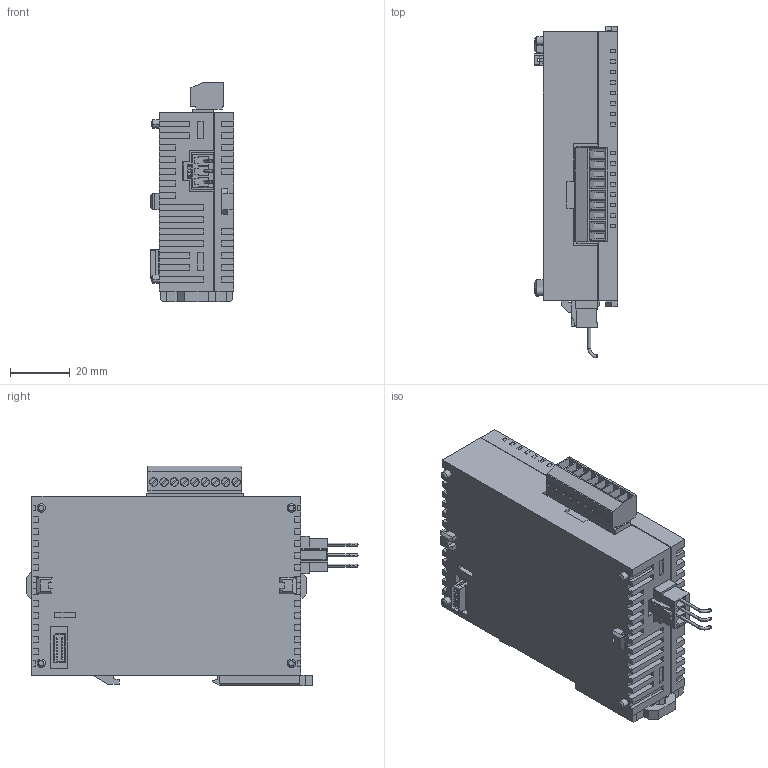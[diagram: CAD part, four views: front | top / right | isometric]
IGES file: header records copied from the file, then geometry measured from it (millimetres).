
Start section: SolidWorks IGES file using analytic representation for surfaces
Global section: file name: C:\catalog\FP0R_catalog\afp0re8yrs\afp0re8yrs.IGS; native system: SolidWorks 2010; preprocessor: SolidWorks 2010; author: ek1676; date: 130628.142749; units: millimetre
Bounding box: 28 x 111.2 x 73.45 mm (x, y, z)
Surface area: 25669.3 mm2 (no closed solid volume)
Topology: 0 solids, 0 shells, 896 faces, 6015 edges, 6015 vertices
Faces by surface type: bspline 825, revolution 71
